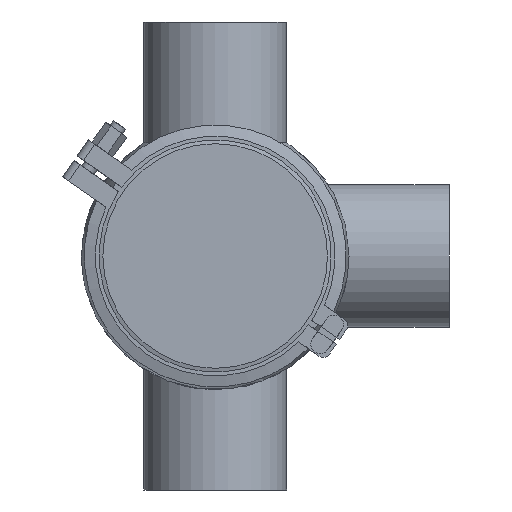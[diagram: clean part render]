
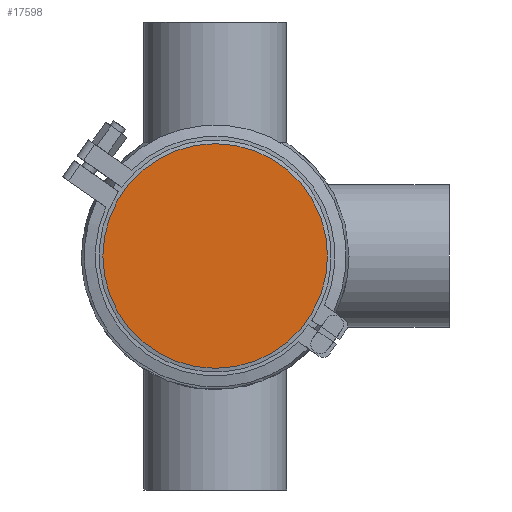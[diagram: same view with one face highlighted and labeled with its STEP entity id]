
A CAD part, front view. The second image highlights one B-rep face of the part: STEP entity #17598.
In plain terms, the highlighted planar face has unit normal (0, -1, 0).
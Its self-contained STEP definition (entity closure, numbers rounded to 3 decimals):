
#225 = ORIENTED_EDGE ( 'NONE', *, *, #8164, .F. ) ;
#4637 = CARTESIAN_POINT ( 'NONE',  ( -60., 0., 0. ) ) ;
#4748 = DIRECTION ( 'NONE',  ( 0., 0., 1. ) ) ;
#5244 = AXIS2_PLACEMENT_3D ( 'NONE', #4637, #17832, #7653 ) ;
#7653 = DIRECTION ( 'NONE',  ( 0., 0., -1. ) ) ;
#8072 = CIRCLE ( 'NONE', #15006, 60. ) ;
#8164 = EDGE_CURVE ( 'NONE', #11013, #11013, #8072, .T. ) ;
#8962 = CARTESIAN_POINT ( 'NONE',  ( 0., 0., 60. ) ) ;
#11013 = VERTEX_POINT ( 'NONE', #8962 ) ;
#12656 = CARTESIAN_POINT ( 'NONE',  ( 0., 0., 0. ) ) ;
#12883 = FACE_OUTER_BOUND ( 'NONE', #15236, .T. ) ;
#15006 = AXIS2_PLACEMENT_3D ( 'NONE', #12656, #17599, #4748 ) ;
#15236 = EDGE_LOOP ( 'NONE', ( #225 ) ) ;
#17598 = ADVANCED_FACE ( 'NONE', ( #12883 ), #19481, .T. ) ;
#17599 = DIRECTION ( 'NONE',  ( 0., 1., 0. ) ) ;
#17832 = DIRECTION ( 'NONE',  ( 0., -1., 0. ) ) ;
#19481 = PLANE ( 'NONE',  #5244 ) ;
